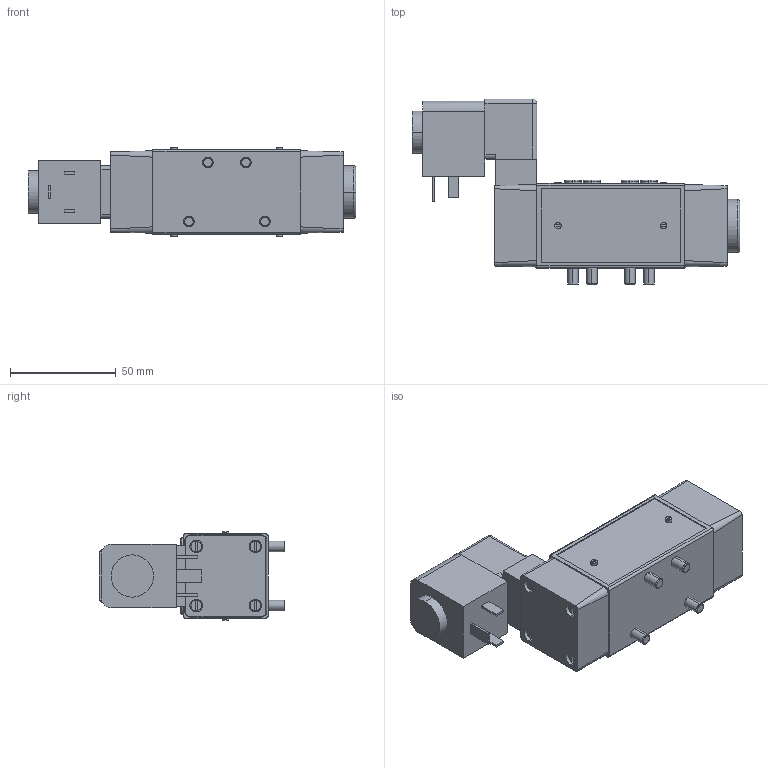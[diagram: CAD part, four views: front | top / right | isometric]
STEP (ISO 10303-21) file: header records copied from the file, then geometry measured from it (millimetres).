
FILE_DESCRIPTION((''),'2;1');
FILE_NAME('0820024028','2017-03-30T',('hug2hc'),(''),'CREO PARAMETRIC BY PTC INC, 2016260','CREO PARAMETRIC BY PTC INC, 2016260','');
FILE_SCHEMA(('CONFIG_CONTROL_DESIGN'));
Length unit declared in the file: millimetre
Products named in the file (1): 0820024028
Bounding box: 155 x 88 x 42 mm (x, y, z)
Volume: 228262.2 mm3; surface area: 33214.7 mm2
Topology: 1 solids, 1 shells, 296 faces, 713 edges, 466 vertices
Faces by surface type: plane 183, cylinder 85, cone 16, torus 10, sphere 2
Entity records: 8802 total; most frequent: CARTESIAN_POINT 1607, DIRECTION 1547, ORIENTED_EDGE 1426, EDGE_CURVE 713, AXIS2_PLACEMENT_3D 554, VERTEX_POINT 466, VECTOR 439, LINE 439
